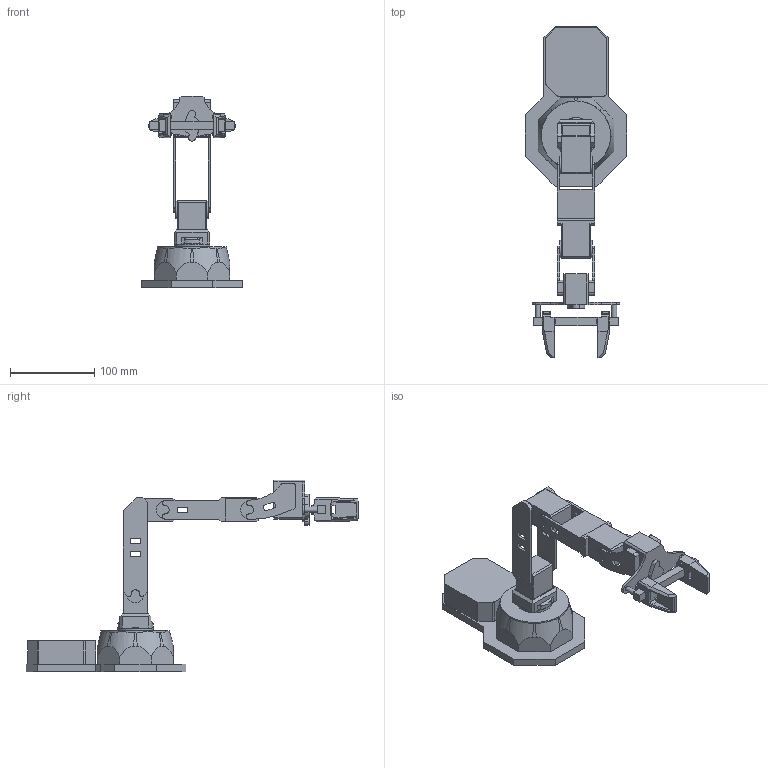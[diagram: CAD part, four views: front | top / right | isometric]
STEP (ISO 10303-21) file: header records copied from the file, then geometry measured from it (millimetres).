
FILE_DESCRIPTION(/* description */ (''),/* implementation_level */ '2;1');
FILE_NAME(/* name */ 'C:/Users/TR1/Desktop/New folder/PX100/PXA-100.step',/* time_stamp */ '2020-07-14T13:34:35-05:00',/* author */ (''),/* organization */ (''),/* preprocessor_version */ 'ST-DEVELOPER v18.1',/* originating_system */ 'Autodesk Translation Framework v9.3.0.1241',/* authorisation */ '');
FILE_SCHEMA (('AUTOMOTIVE_DESIGN { 1 0 10303 214 3 1 1 }'));
Length unit declared in the file: millimetre
Products named in the file (7): 1 - PXA-100-A; PX-100 Base v2; PX-100 Shoulder v3; Fore - 1 - PX-100 v2; PX100 SRG v3; SRG Carriage With Finger v3; SIMPLIFIED - PXA-100-UA v4
Assembly tree (7 placements, depth 2):
  1 - PXA-100-A
    PX-100 Base v2
    PX-100 Shoulder v3
    Fore - 1 - PX-100 v2
    PX100 SRG v3
    SRG Carriage With Finger v3  x2
    SIMPLIFIED - PXA-100-UA v4
Bounding box: 120 x 394 x 227.7 mm (x, y, z)
Volume: 872651.6 mm3; surface area: 141281.1 mm2
Topology: 9 solids, 11 shells, 478 faces, 1291 edges, 849 vertices
Faces by surface type: plane 337, cylinder 141
Full cylindrical faces by diameter (mm): 3.8 x4, 4.9 x2, 6.3 x2, 20.5 x7, 22.2 x1, 22.5 x1, 42.348 x1, 82 x1
Entity records: 13520 total; most frequent: CARTESIAN_POINT 2386, DIRECTION 2289, ORIENTED_EDGE 2268, EDGE_CURVE 1134, LINE 833, VECTOR 833, VERTEX_POINT 745, AXIS2_PLACEMENT_3D 728
